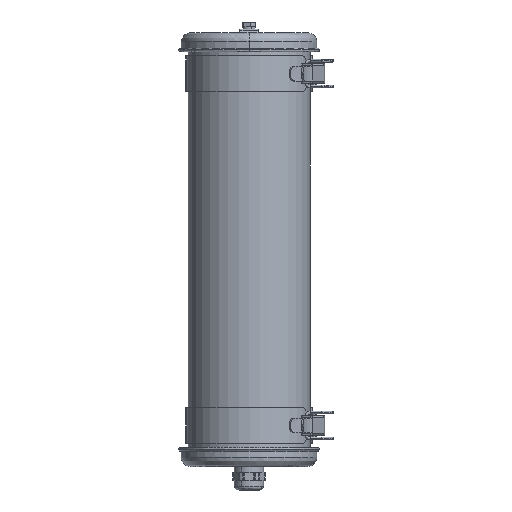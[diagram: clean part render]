
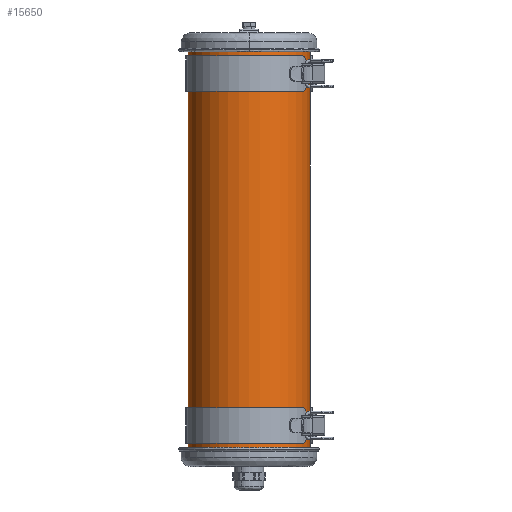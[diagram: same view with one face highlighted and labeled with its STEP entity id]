
A CAD part, front view. The second image highlights one B-rep face of the part: STEP entity #15650.
In plain terms, the highlighted cylindrical face has radius 50 mm (diameter 100 mm), a partial arc.
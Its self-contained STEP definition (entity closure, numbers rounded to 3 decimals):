
#185 = VECTOR ( 'NONE', #5029, 1000. ) ;
#1125 = VERTEX_POINT ( 'NONE', #16361 ) ;
#3020 = CARTESIAN_POINT ( 'NONE',  ( 0., 0., 175. ) ) ;
#3497 = EDGE_CURVE ( 'NONE', #16241, #1125, #7134, .T. ) ;
#3762 = EDGE_CURVE ( 'NONE', #12390, #8502, #12598, .T. ) ;
#4438 = EDGE_CURVE ( 'NONE', #16241, #12390, #7519, .T. ) ;
#4463 = EDGE_CURVE ( 'NONE', #8502, #1125, #16372, .T. ) ;
#5029 = DIRECTION ( 'NONE',  ( 0., 0., -1. ) ) ;
#5243 = DIRECTION ( 'NONE',  ( -1., 0., 0. ) ) ;
#5258 = DIRECTION ( 'NONE',  ( 0., 0., 1. ) ) ;
#5275 = CARTESIAN_POINT ( 'NONE',  ( 0., 0., -175. ) ) ;
#5444 = DIRECTION ( 'NONE',  ( 0., 0., -1. ) ) ;
#5455 = CARTESIAN_POINT ( 'NONE',  ( 0., 0., 175. ) ) ;
#5478 = DIRECTION ( 'NONE',  ( 0., 0., -1. ) ) ;
#5579 = CYLINDRICAL_SURFACE ( 'NONE', #11843, 50. ) ;
#5580 = DIRECTION ( 'NONE',  ( -1., 0., 0. ) ) ;
#5599 = CARTESIAN_POINT ( 'NONE',  ( -50., 0., 175. ) ) ;
#7134 = LINE ( 'NONE', #12593, #185 ) ;
#7187 = EDGE_LOOP ( 'NONE', ( #13384, #13124, #13055, #12801 ) ) ;
#7348 = AXIS2_PLACEMENT_3D ( 'NONE', #5275, #5258, #5243 ) ;
#7376 = AXIS2_PLACEMENT_3D ( 'NONE', #5455, #5444, #10848 ) ;
#7519 = CIRCLE ( 'NONE', #7376, 50. ) ;
#8502 = VERTEX_POINT ( 'NONE', #11239 ) ;
#9407 = CARTESIAN_POINT ( 'NONE',  ( 50., 0., 175. ) ) ;
#10755 = DIRECTION ( 'NONE',  ( 0., 0., -1. ) ) ;
#10791 = CARTESIAN_POINT ( 'NONE',  ( -50., 0., 175. ) ) ;
#10848 = DIRECTION ( 'NONE',  ( -1., 0., 0. ) ) ;
#11239 = CARTESIAN_POINT ( 'NONE',  ( -50., 0., -175. ) ) ;
#11843 = AXIS2_PLACEMENT_3D ( 'NONE', #3020, #5478, #5580 ) ;
#12390 = VERTEX_POINT ( 'NONE', #5599 ) ;
#12525 = FACE_OUTER_BOUND ( 'NONE', #7187, .T. ) ;
#12593 = CARTESIAN_POINT ( 'NONE',  ( 50., 0., 175. ) ) ;
#12598 = LINE ( 'NONE', #10791, #13444 ) ;
#12801 = ORIENTED_EDGE ( 'NONE', *, *, #4463, .T. ) ;
#13055 = ORIENTED_EDGE ( 'NONE', *, *, #3762, .T. ) ;
#13124 = ORIENTED_EDGE ( 'NONE', *, *, #4438, .T. ) ;
#13384 = ORIENTED_EDGE ( 'NONE', *, *, #3497, .F. ) ;
#13444 = VECTOR ( 'NONE', #10755, 1000. ) ;
#15650 = ADVANCED_FACE ( 'NONE', ( #12525 ), #5579, .T. ) ;
#16241 = VERTEX_POINT ( 'NONE', #9407 ) ;
#16361 = CARTESIAN_POINT ( 'NONE',  ( 50., 0., -175. ) ) ;
#16372 = CIRCLE ( 'NONE', #7348, 50. ) ;
